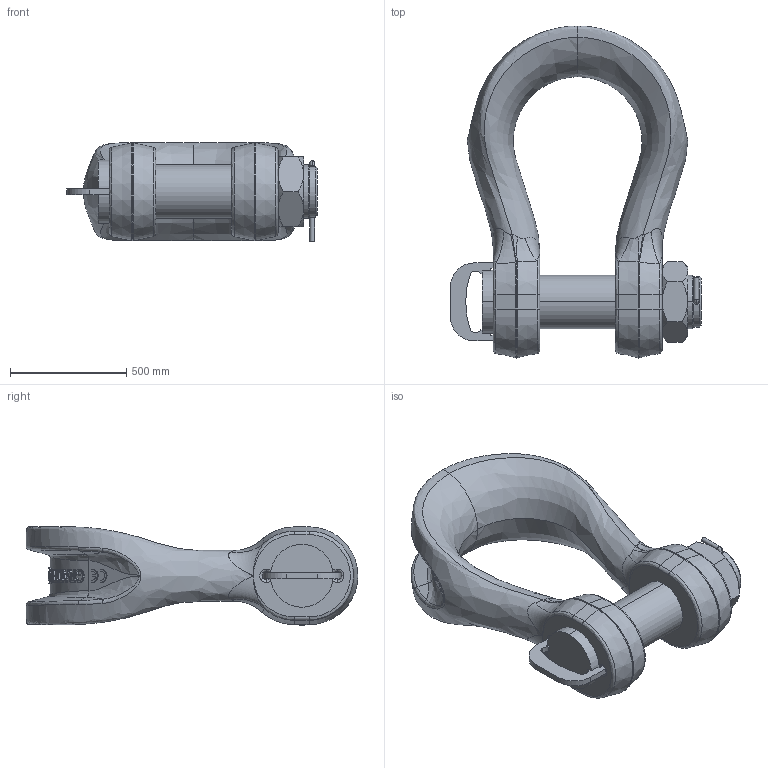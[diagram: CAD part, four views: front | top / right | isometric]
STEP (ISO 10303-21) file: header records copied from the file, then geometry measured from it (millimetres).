
FILE_DESCRIPTION(('STEP AP214'),'1');
FILE_NAME('slgpf0800.stp','2017-07-03T06:30:46',('TraceParts'),('TraceParts S.A.'),'Spatial InterOp 3D',' ',' ');
FILE_SCHEMA(('automotive_design'));
Length unit declared in the file: millimetre
Products named in the file (5): slgpf0800_1; slgpf0800_2; slgpf0800_3; slgpf0800_4; slgpf0800_5
Bounding box: 1077 x 1425.5 x 421.95 mm (x, y, z)
Volume: 180792990.9 mm3; surface area: 4378431.3 mm2
Topology: 5 solids, 5 shells, 508 faces, 1283 edges, 812 vertices
Faces by surface type: bspline 224, plane 165, cylinder 84, cone 35
Entity records: 104302 total; most frequent: CARTESIAN_POINT 89725, ORIENTED_EDGE 2554, DIRECTION 1506, EDGE_CURVE 1277, VERTEX_POINT 812, B_SPLINE_CURVE_WITH_KNOTS 620, AXIS2_PLACEMENT_3D 581, EDGE_LOOP 549
